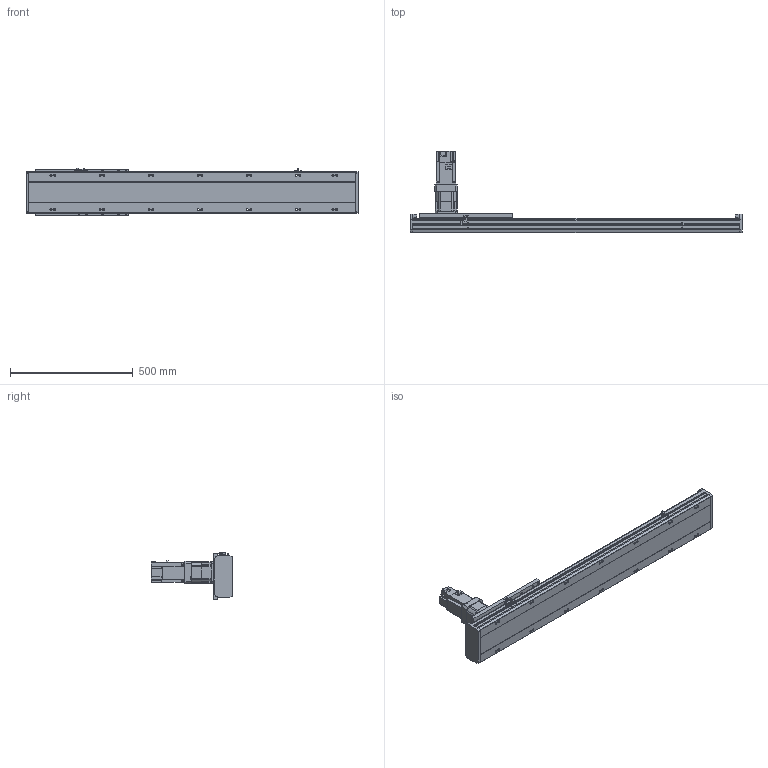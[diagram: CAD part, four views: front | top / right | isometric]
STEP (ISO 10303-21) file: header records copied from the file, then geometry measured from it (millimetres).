
FILE_DESCRIPTION(/* description */ ('STEP AP203'),/* implementation_level */ '2;1');
FILE_NAME(/* name */ 'SHS17A-L13-S900-BC-T75-C1-N(0)',/* time_stamp */ '2023-03-27T08:57:04+02:00',/* author */ ('License CC BY-ND 4.0'),/* organization */ ('CADENAS'),/* preprocessor_version */ 'ST-DEVELOPER v19.3',/* originating_system */ 'PARTsolutions',/* authorisation */ ' ');
FILE_SCHEMA (('CONFIG_CONTROL_DESIGN'));
Length unit declared in the file: millimetre
Products named in the file (7): SHS17A-L13-S900-BC-T75-C1-N(0); PSC140-sensor; SHS17A-S900(0)_body2; T75-p1; SHS17A-S900_body3; SHS17A-S900-C1(0)_slider; SHS17A-S900-C1(0)_body
Assembly tree (13 placements, depth 2):
  SHS17A-L13-S900-BC-T75-C1-N(0)
    PSC140-sensor  x3
    SHS17A-S900(0)_body2  x6
    T75-p1
    SHS17A-S900_body3
    SHS17A-S900-C1(0)_slider
    SHS17A-S900-C1(0)_body
Bounding box: 1354 x 333.8 x 193.4 mm (x, y, z)
Volume: 11309548.8 mm3; surface area: 1367844.5 mm2
Topology: 13 solids, 13 shells, 1880 faces, 4746 edges, 3095 vertices
Faces by surface type: plane 1260, cylinder 549, cone 68, torus 3
Full cylindrical faces by diameter (mm): 2.8 x3, 4.134 x24, 4.5 x2, 4.6 x3, 4.917 x15, 5.5 x48, 6 x7, 6.5 x24, 6.647 x22, 6.8 x9, 8 x3, 8.5 x14, 10 x28, 11 x4, 14 x14, 22 x1, 24 x1, 24.2 x1, 28 x1, 28.2 x1, 28.8 x1, 29.8 x1, 48.542 x1, 68 x1, 70 x1, 78 x1, 80 x2
Entity records: 32906 total; most frequent: CARTESIAN_POINT 6098, DIRECTION 5473, ORIENTED_EDGE 5204, EDGE_CURVE 2602, AXIS2_PLACEMENT_3D 1888, VERTEX_POINT 1825, LINE 1697, VECTOR 1697
